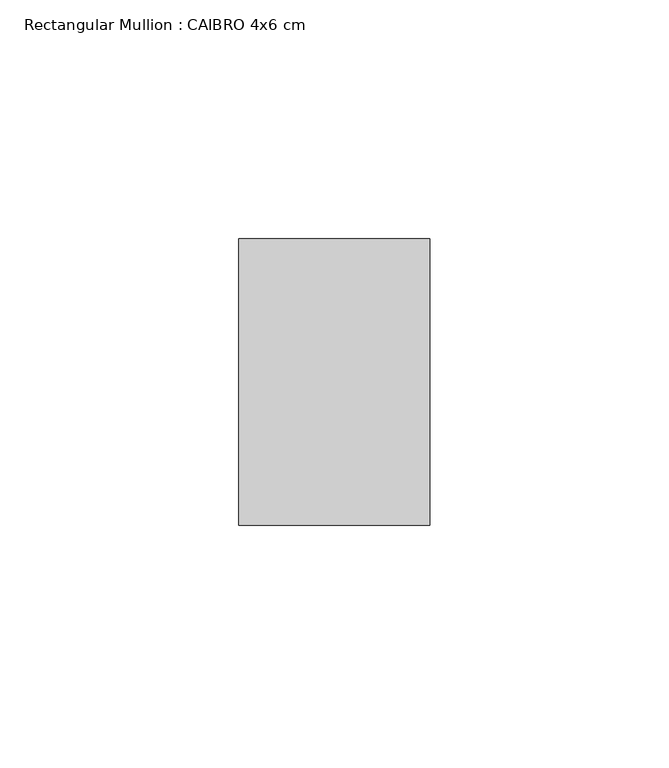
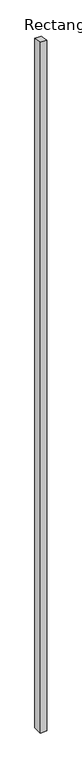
"""IFC4 building model written with IfcOpenShell, lengths in millimetres: member geometry, Rectangular Mullion : CAIBRO 4x6 cm."""

import ifcopenshell
import ifcopenshell.guid

model = None  # the IFC model being written
_history = None  # IfcOwnerHistory: only IFC2X3 demands one
_inside = {}  # id of a spatial element -> (the spatial element, [elements in it])
_under = {}  # id of a project, library or spatial element -> (it, [spatial elements below it])
_declared = {}  # id of a project -> (the project, [libraries it declares])
_typed = {}  # id of a type object -> (the type object, [elements of that type])
_made_of = {}  # id of a material, layer set ... -> (it, [elements and type objects made of it])


def new_model(schema):
    """Start an empty IFC model of exactly this schema.

    Asked for "IFC4X3", IfcOpenShell would pick the latest addendum, in which some entities
    have other attributes; the version numbers below select the first issue.
    IFC2X3 requires an IfcOwnerHistory on every rooted entity: one is made here for all.
    """
    global model, _history
    if schema == "IFC4X3":
        model = ifcopenshell.file(schema_version=(4, 3, 0, 0))
    else:
        model = ifcopenshell.file(schema=schema)
    _inside.clear()
    _under.clear()
    _declared.clear()
    _typed.clear()
    _made_of.clear()
    _history = None
    if model.schema == "IFC2X3":
        org = make("IfcOrganization", Name="unknown")
        user = make(
            "IfcPersonAndOrganization",
            ThePerson=make("IfcPerson", FamilyName="unknown"),
            TheOrganization=org,
        )
        app = make(
            "IfcApplication",
            ApplicationDeveloper=org,
            Version="unknown",
            ApplicationFullName="unknown",
            ApplicationIdentifier="unknown",
        )
        _history = make(
            "IfcOwnerHistory",
            OwningUser=user,
            OwningApplication=app,
            ChangeAction="ADDED",
            CreationDate=0,
        )
    return model


def make(cls, **values):
    """One entity of the class cls with the attributes given. An attribute that is None is left unset."""
    return model.create_entity(
        cls, **{name: value for name, value in values.items() if value is not None}
    )


def rooted(cls, **values):
    """An entity with a GlobalId (a new one), such as an element, a storey or a relation."""
    return make(cls, GlobalId=ifcopenshell.guid.new(), OwnerHistory=_history, **values)


def si_unit(unit_type, name, prefix=None):
    """IfcSIUnit, for example si_unit("LENGTHUNIT", "METRE", prefix="MILLI")."""
    return make("IfcSIUnit", UnitType=unit_type, Prefix=prefix, Name=name)


def assignment(units):
    """IfcUnitAssignment: the units of a project."""
    return None if units is None else make("IfcUnitAssignment", Units=units)


def point(xyz):
    """IfcCartesianPoint."""
    return None if xyz is None else make("IfcCartesianPoint", Coordinates=xyz)


def direction(xyz):
    """IfcDirection."""
    return None if xyz is None else make("IfcDirection", DirectionRatios=xyz)


def frame(location, z_axis=None, x_axis=None):
    """IfcAxis2Placement3D, a coordinate frame: its origin and axes. An axis left out is left unset."""
    return make(
        "IfcAxis2Placement3D",
        Location=point(location),
        Axis=direction(z_axis),
        RefDirection=direction(x_axis),
    )


def origin():
    """The frame at (0, 0, 0) with its axes left unset."""
    return frame((0.0, 0.0, 0.0))


def place(relative_to, where):
    """IfcLocalPlacement: puts the frame where relative to a parent placement (None: the world)."""
    return make(
        "IfcLocalPlacement", PlacementRelTo=relative_to, RelativePlacement=where
    )


def context(
    kind, dimensions, precision=None, world=None, true_north=None, identifier=None
):
    """IfcGeometricRepresentationContext, for example the 3D "Model" context."""
    return make(
        "IfcGeometricRepresentationContext",
        ContextIdentifier=identifier,
        ContextType=kind,
        CoordinateSpaceDimension=dimensions,
        Precision=precision,
        WorldCoordinateSystem=world,
        TrueNorth=true_north,
    )


def project(units=None, contexts=None):
    """IfcProject with its units and contexts."""
    return rooted(
        "IfcProject",
        Name="project",
        RepresentationContexts=contexts,
        UnitsInContext=assignment(units),
    )


def spatial(cls, under=None, at=None, **own):
    """A site, building, storey or space (cls), placed at a placement, below another one or the project."""
    s = rooted(cls, ObjectPlacement=at, **own)
    if under is not None:
        _under.setdefault(under.id(), (under, []))[1].append(s)
    return s


def polyline(points):
    """IfcPolyline through the points."""
    return make("IfcPolyline", Points=[point(p) for p in points])


def outline(outer, holes=None, kind="AREA"):
    """IfcArbitraryClosedProfileDef: a profile drawn as a closed curve; with holes, ...WithVoids."""
    if holes is None:
        return make("IfcArbitraryClosedProfileDef", ProfileType=kind, OuterCurve=outer)
    return make(
        "IfcArbitraryProfileDefWithVoids",
        ProfileType=kind,
        OuterCurve=outer,
        InnerCurves=holes,
    )


def extrude(swept, where, along, depth):
    """IfcExtrudedAreaSolid: the profile swept, set in the frame where, extruded along a direction by depth."""
    return make(
        "IfcExtrudedAreaSolid",
        SweptArea=swept,
        Position=where,
        ExtrudedDirection=direction(along),
        Depth=depth,
    )


def shape(context_of_items, identifier, shape_type, items):
    """IfcShapeRepresentation: the items that make up one representation, for example the "Body"."""
    return make(
        "IfcShapeRepresentation",
        ContextOfItems=context_of_items,
        RepresentationIdentifier=identifier,
        RepresentationType=shape_type,
        Items=items,
    )


def source(mapping_origin, context_of_items, identifier, shape_type, items):
    """IfcRepresentationMap: a shape defined once, which mapped items show again and again."""
    return make(
        "IfcRepresentationMap",
        MappingOrigin=mapping_origin,
        MappedRepresentation=shape(context_of_items, identifier, shape_type, items),
    )


def transform(
    local_origin,
    x_axis=None,
    y_axis=None,
    z_axis=None,
    scale=None,
    scale2=None,
    scale3=None,
    uniform=True,
):
    """IfcCartesianTransformationOperator3D, or its non-uniform kind. x_axis, y_axis, z_axis: its Axis1, 2, 3."""
    if uniform:
        return make(
            "IfcCartesianTransformationOperator3D",
            Axis1=direction(x_axis),
            Axis2=direction(y_axis),
            LocalOrigin=point(local_origin),
            Scale=scale,
            Axis3=direction(z_axis),
        )
    return make(
        "IfcCartesianTransformationOperator3DnonUniform",
        Axis1=direction(x_axis),
        Axis2=direction(y_axis),
        LocalOrigin=point(local_origin),
        Scale=scale,
        Axis3=direction(z_axis),
        Scale2=scale2,
        Scale3=scale3,
    )


def mapped(mapping_source, mapping_target):
    """IfcMappedItem: shows the shape of a source again, moved by a transform."""
    return make(
        "IfcMappedItem", MappingSource=mapping_source, MappingTarget=mapping_target
    )


def made_of(thing, what):
    """Note that an element or type object is made of a material, layer set ...; save() writes the relation."""
    if what is not None:
        _made_of.setdefault(what.id(), (what, []))[1].append(thing)
    return thing


def element(
    cls,
    number,
    at=None,
    inside=None,
    cuts=None,
    type_object=None,
    material=None,
    context=None,
    identifier="Body",
    shape_type=None,
    held_by="IfcProductDefinitionShape",
    body=None,
    shapes=None,
    **own,
):
    """One element of the class cls, such as IfcWall. Its Tag is "e" and its number.

    at: its placement. inside: the storey or other place that contains it. cuts: it is an
    opening in that element (IfcRelVoidsElement). A single representation is given by context,
    identifier, shape_type and body (its items); several are given by shapes. held_by: the class
    of the entity that holds the representations. save() writes the other relations.
    """
    e = rooted(cls, Tag="e%d" % number, ObjectPlacement=at, **own)
    if body is not None:
        shapes = [shape(context, identifier, shape_type, body)]
    if shapes is not None:
        e.Representation = make(held_by, Representations=shapes)
    if inside is not None:
        _inside.setdefault(inside.id(), (inside, []))[1].append(e)
    if cuts is not None:
        rooted(
            "IfcRelVoidsElement", RelatingBuildingElement=cuts, RelatedOpeningElement=e
        )
    if type_object is not None:
        _typed.setdefault(type_object.id(), (type_object, []))[1].append(e)
    return made_of(e, material)


def aggregate(whole, parts):
    """IfcRelAggregates: a whole, such as a stair, and the parts it consists of."""
    return rooted("IfcRelAggregates", RelatingObject=whole, RelatedObjects=parts)


def save(model, path):
    """Write the relations noted so far, then the file.

    IfcRelAggregates (storeys below a building ...), IfcRelContainedInSpatialStructure (elements
    in a storey), IfcRelDefinesByType, IfcRelAssociatesMaterial and IfcRelDeclares: one each for
    every whole, place, type object, material and project.
    """
    for whole, parts in _under.values():
        aggregate(whole, parts)
    for where, things in _inside.values():
        rooted(
            "IfcRelContainedInSpatialStructure",
            RelatedElements=things,
            RelatingStructure=where,
        )
    for kind, things in _typed.values():
        rooted("IfcRelDefinesByType", RelatedObjects=things, RelatingType=kind)
    for what, things in _made_of.values():
        rooted("IfcRelAssociatesMaterial", RelatedObjects=things, RelatingMaterial=what)
    for by, libraries in _declared.values():
        rooted("IfcRelDeclares", RelatingContext=by, RelatedDefinitions=libraries)
    model.write(path)


def rectangular_mullion_caibro_4x6_cm_e77ada83(model_context):
    return source(origin(), model_context, "Body", "SweptSolid", [
        extrude(outline(polyline([(0.0, 0.0), (60.0, -9.0), (60.0, -4616.070576), (0.0, -4616.070576), (0.0, 0.0)])), frame((-20.0, 0.0, 0.0), z_axis=(1.0, 0.0, 0.0), x_axis=(0.0, 1.0, 0.0)), (0.0, 0.0, 1.0), 40.0),
    ])


if __name__ == "__main__":
    model = new_model("IFC4")
    model_context = context("Model", 3, world=origin())
    ifc_project = project(units=[si_unit("LENGTHUNIT", "METRE", prefix="MILLI")], contexts=[model_context])
    site = spatial("IfcSite", under=ifc_project)
    building = spatial("IfcBuilding", under=site)
    placement = place(None, origin())
    rectangular_mullion_caibro_4x6_cm_shape = rectangular_mullion_caibro_4x6_cm_e77ada83(model_context)
    element("IfcMember", 1, ObjectType="Rectangular Mullion : CAIBRO 4x6 cm", at=placement, inside=building, context=model_context, shape_type="MappedRepresentation", body=[
        mapped(rectangular_mullion_caibro_4x6_cm_shape, transform((0.0, 0.0, 0.0), x_axis=(1.0, 0.0, 0.0), y_axis=(0.0, 1.0, 0.0), z_axis=(0.0, 0.0, 1.0))),
    ])
    save(model, "model.ifc")
